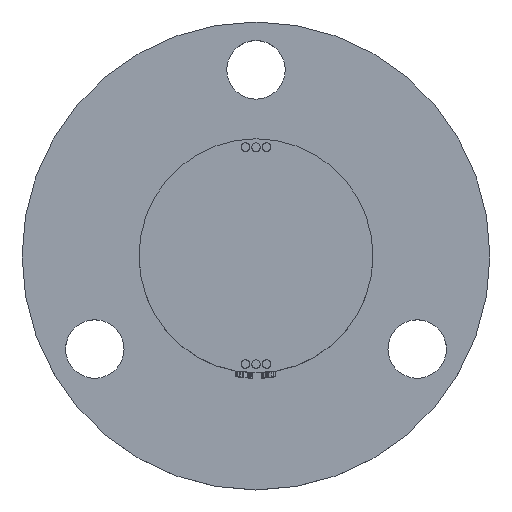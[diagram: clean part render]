
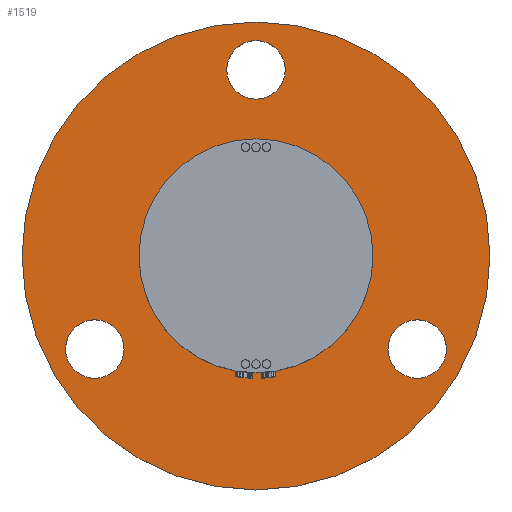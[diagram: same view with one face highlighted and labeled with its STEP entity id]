
A CAD part, top view. The second image highlights one B-rep face of the part: STEP entity #1519.
In plain terms, the highlighted planar face has unit normal (0, 0, 1).
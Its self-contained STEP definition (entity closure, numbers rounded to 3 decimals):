
#102=FACE_BOUND('',#2817,.T.);
#103=FACE_BOUND('',#2818,.T.);
#104=FACE_BOUND('',#2819,.T.);
#105=FACE_BOUND('',#2820,.T.);
#106=FACE_BOUND('',#2821,.T.);
#248=CIRCLE('',#10560,2.75);
#249=CIRCLE('',#10561,2.75);
#250=CIRCLE('',#10562,2.75);
#251=CIRCLE('',#10563,11.);
#252=CIRCLE('',#10564,22.);
#1519=ADVANCED_FACE('',(#102,#103,#104,#105,#106),#1843,.T.);
#1843=PLANE('',#10565);
#2817=EDGE_LOOP('',(#4785));
#2818=EDGE_LOOP('',(#4786));
#2819=EDGE_LOOP('',(#4787));
#2820=EDGE_LOOP('',(#4788));
#2821=EDGE_LOOP('',(#4789));
#4785=ORIENTED_EDGE('',*,*,#8422,.F.);
#4786=ORIENTED_EDGE('',*,*,#8423,.F.);
#4787=ORIENTED_EDGE('',*,*,#8424,.F.);
#4788=ORIENTED_EDGE('',*,*,#8425,.T.);
#4789=ORIENTED_EDGE('',*,*,#8426,.F.);
#6988=VERTEX_POINT('',#20889);
#6989=VERTEX_POINT('',#20891);
#6990=VERTEX_POINT('',#20893);
#6991=VERTEX_POINT('',#20895);
#6992=VERTEX_POINT('',#20897);
#8422=EDGE_CURVE('',#6988,#6988,#248,.T.);
#8423=EDGE_CURVE('',#6989,#6989,#249,.T.);
#8424=EDGE_CURVE('',#6990,#6990,#250,.T.);
#8425=EDGE_CURVE('',#6991,#6991,#251,.T.);
#8426=EDGE_CURVE('',#6992,#6992,#252,.T.);
#10560=AXIS2_PLACEMENT_3D('',#20888,#11593,#11594);
#10561=AXIS2_PLACEMENT_3D('',#20890,#11595,#11596);
#10562=AXIS2_PLACEMENT_3D('',#20892,#11597,#11598);
#10563=AXIS2_PLACEMENT_3D('',#20894,#11599,#11600);
#10564=AXIS2_PLACEMENT_3D('',#20896,#11601,#11602);
#10565=AXIS2_PLACEMENT_3D('',#20898,#11603,#11604);
#11593=DIRECTION('',(0.,0.,1.));
#11594=DIRECTION('',(1.,0.,0.));
#11595=DIRECTION('',(0.,0.,1.));
#11596=DIRECTION('',(1.,0.,0.));
#11597=DIRECTION('',(0.,0.,1.));
#11598=DIRECTION('',(1.,0.,0.));
#11599=DIRECTION('',(0.,0.,-1.));
#11600=DIRECTION('',(1.,0.,0.));
#11601=DIRECTION('',(0.,0.,-1.));
#11602=DIRECTION('',(1.,0.,0.));
#11603=DIRECTION('',(0.,0.,1.));
#11604=DIRECTION('',(1.,0.,0.));
#20888=CARTESIAN_POINT('',(0.,17.5,2.5));
#20889=CARTESIAN_POINT('',(2.75,17.5,2.5));
#20890=CARTESIAN_POINT('',(-15.155,-8.75,2.5));
#20891=CARTESIAN_POINT('',(-12.405,-8.75,2.5));
#20892=CARTESIAN_POINT('',(15.155,-8.75,2.5));
#20893=CARTESIAN_POINT('',(17.905,-8.75,2.5));
#20894=CARTESIAN_POINT('',(0.,0.,2.5));
#20895=CARTESIAN_POINT('',(11.,0.,2.5));
#20896=CARTESIAN_POINT('',(0.,0.,2.5));
#20897=CARTESIAN_POINT('',(22.,0.,2.5));
#20898=CARTESIAN_POINT('',(0.,0.,2.5));
